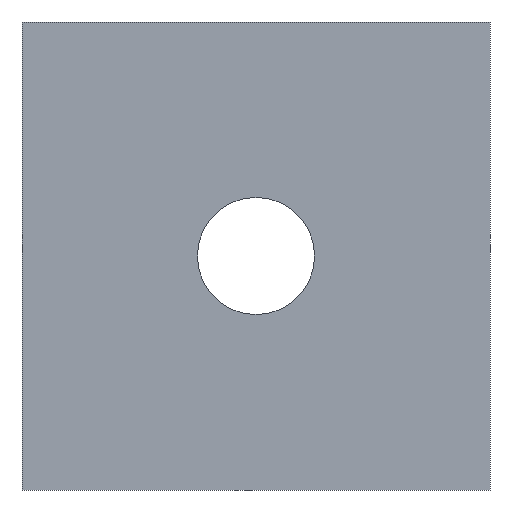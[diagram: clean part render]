
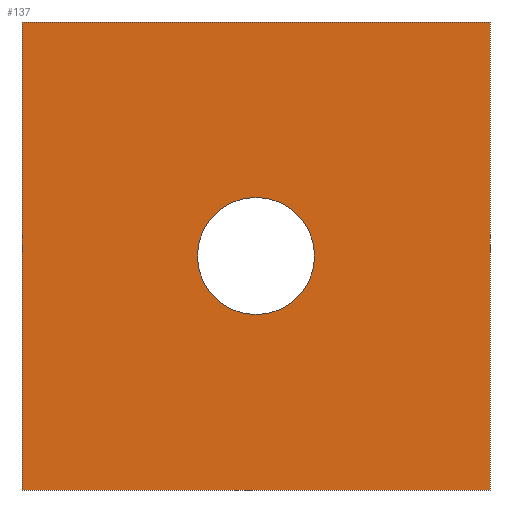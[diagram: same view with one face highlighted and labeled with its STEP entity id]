
A CAD part, front view. The second image highlights one B-rep face of the part: STEP entity #137.
In plain terms, the highlighted planar face has unit normal (0, -1, 0).
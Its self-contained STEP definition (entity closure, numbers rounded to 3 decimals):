
#21 = EDGE_CURVE('',#22,#24,#26,.T.);
#22 = VERTEX_POINT('',#23);
#23 = CARTESIAN_POINT('',(-38.5,-3.675,62.5));
#24 = VERTEX_POINT('',#25);
#25 = CARTESIAN_POINT('',(-38.5,-3.675,67.5));
#26 = SURFACE_CURVE('',#27,(#31,#43),.PCURVE_S1.);
#27 = LINE('',#28,#29);
#28 = CARTESIAN_POINT('',(-38.5,-3.675,62.5));
#29 = VECTOR('',#30,1.);
#30 = DIRECTION('',(0.,0.,1.));
#31 = PCURVE('',#32,#37);
#32 = PLANE('',#33);
#33 = AXIS2_PLACEMENT_3D('',#34,#35,#36);
#34 = CARTESIAN_POINT('',(-38.5,-3.675,62.5));
#35 = DIRECTION('',(1.,0.,0.));
#36 = DIRECTION('',(0.,0.,1.));
#37 = DEFINITIONAL_REPRESENTATION('',(#38),#42);
#38 = LINE('',#39,#40);
#39 = CARTESIAN_POINT('',(0.,0.));
#40 = VECTOR('',#41,1.);
#41 = DIRECTION('',(1.,0.));
#42 = ( GEOMETRIC_REPRESENTATION_CONTEXT(2) 
PARAMETRIC_REPRESENTATION_CONTEXT() REPRESENTATION_CONTEXT('2D SPACE',''
  ) );
#43 = PCURVE('',#44,#49);
#44 = PLANE('',#45);
#45 = AXIS2_PLACEMENT_3D('',#46,#47,#48);
#46 = CARTESIAN_POINT('',(-38.5,-3.675,62.5));
#47 = DIRECTION('',(0.,1.,0.));
#48 = DIRECTION('',(0.,0.,1.));
#49 = DEFINITIONAL_REPRESENTATION('',(#50),#54);
#50 = LINE('',#51,#52);
#51 = CARTESIAN_POINT('',(0.,0.));
#52 = VECTOR('',#53,1.);
#53 = DIRECTION('',(1.,0.));
#54 = ( GEOMETRIC_REPRESENTATION_CONTEXT(2) 
PARAMETRIC_REPRESENTATION_CONTEXT() REPRESENTATION_CONTEXT('2D SPACE',''
  ) );
#72 = PLANE('',#73);
#73 = AXIS2_PLACEMENT_3D('',#74,#75,#76);
#74 = CARTESIAN_POINT('',(-38.5,-3.675,62.5));
#75 = DIRECTION('',(0.,0.,1.));
#76 = DIRECTION('',(1.,0.,0.));
#126 = PLANE('',#127);
#127 = AXIS2_PLACEMENT_3D('',#128,#129,#130);
#128 = CARTESIAN_POINT('',(-38.5,-3.675,67.5));
#129 = DIRECTION('',(0.,0.,1.));
#130 = DIRECTION('',(1.,0.,0.));
#137 = ADVANCED_FACE('',(#138,#213),#44,.F.);
#138 = FACE_BOUND('',#139,.F.);
#139 = EDGE_LOOP('',(#140,#163,#164,#187));
#140 = ORIENTED_EDGE('',*,*,#141,.F.);
#141 = EDGE_CURVE('',#22,#142,#144,.T.);
#142 = VERTEX_POINT('',#143);
#143 = CARTESIAN_POINT('',(-33.5,-3.675,62.5));
#144 = SURFACE_CURVE('',#145,(#149,#156),.PCURVE_S1.);
#145 = LINE('',#146,#147);
#146 = CARTESIAN_POINT('',(-38.5,-3.675,62.5));
#147 = VECTOR('',#148,1.);
#148 = DIRECTION('',(1.,0.,0.));
#149 = PCURVE('',#44,#150);
#150 = DEFINITIONAL_REPRESENTATION('',(#151),#155);
#151 = LINE('',#152,#153);
#152 = CARTESIAN_POINT('',(0.,0.));
#153 = VECTOR('',#154,1.);
#154 = DIRECTION('',(0.,1.));
#155 = ( GEOMETRIC_REPRESENTATION_CONTEXT(2) 
PARAMETRIC_REPRESENTATION_CONTEXT() REPRESENTATION_CONTEXT('2D SPACE',''
  ) );
#156 = PCURVE('',#72,#157);
#157 = DEFINITIONAL_REPRESENTATION('',(#158),#162);
#158 = LINE('',#159,#160);
#159 = CARTESIAN_POINT('',(0.,0.));
#160 = VECTOR('',#161,1.);
#161 = DIRECTION('',(1.,0.));
#162 = ( GEOMETRIC_REPRESENTATION_CONTEXT(2) 
PARAMETRIC_REPRESENTATION_CONTEXT() REPRESENTATION_CONTEXT('2D SPACE',''
  ) );
#163 = ORIENTED_EDGE('',*,*,#21,.T.);
#164 = ORIENTED_EDGE('',*,*,#165,.T.);
#165 = EDGE_CURVE('',#24,#166,#168,.T.);
#166 = VERTEX_POINT('',#167);
#167 = CARTESIAN_POINT('',(-33.5,-3.675,67.5));
#168 = SURFACE_CURVE('',#169,(#173,#180),.PCURVE_S1.);
#169 = LINE('',#170,#171);
#170 = CARTESIAN_POINT('',(-38.5,-3.675,67.5));
#171 = VECTOR('',#172,1.);
#172 = DIRECTION('',(1.,0.,0.));
#173 = PCURVE('',#44,#174);
#174 = DEFINITIONAL_REPRESENTATION('',(#175),#179);
#175 = LINE('',#176,#177);
#176 = CARTESIAN_POINT('',(5.,0.));
#177 = VECTOR('',#178,1.);
#178 = DIRECTION('',(0.,1.));
#179 = ( GEOMETRIC_REPRESENTATION_CONTEXT(2) 
PARAMETRIC_REPRESENTATION_CONTEXT() REPRESENTATION_CONTEXT('2D SPACE',''
  ) );
#180 = PCURVE('',#126,#181);
#181 = DEFINITIONAL_REPRESENTATION('',(#182),#186);
#182 = LINE('',#183,#184);
#183 = CARTESIAN_POINT('',(0.,0.));
#184 = VECTOR('',#185,1.);
#185 = DIRECTION('',(1.,0.));
#186 = ( GEOMETRIC_REPRESENTATION_CONTEXT(2) 
PARAMETRIC_REPRESENTATION_CONTEXT() REPRESENTATION_CONTEXT('2D SPACE',''
  ) );
#187 = ORIENTED_EDGE('',*,*,#188,.F.);
#188 = EDGE_CURVE('',#142,#166,#189,.T.);
#189 = SURFACE_CURVE('',#190,(#194,#201),.PCURVE_S1.);
#190 = LINE('',#191,#192);
#191 = CARTESIAN_POINT('',(-33.5,-3.675,62.5));
#192 = VECTOR('',#193,1.);
#193 = DIRECTION('',(0.,0.,1.));
#194 = PCURVE('',#44,#195);
#195 = DEFINITIONAL_REPRESENTATION('',(#196),#200);
#196 = LINE('',#197,#198);
#197 = CARTESIAN_POINT('',(0.,5.));
#198 = VECTOR('',#199,1.);
#199 = DIRECTION('',(1.,0.));
#200 = ( GEOMETRIC_REPRESENTATION_CONTEXT(2) 
PARAMETRIC_REPRESENTATION_CONTEXT() REPRESENTATION_CONTEXT('2D SPACE',''
  ) );
#201 = PCURVE('',#202,#207);
#202 = PLANE('',#203);
#203 = AXIS2_PLACEMENT_3D('',#204,#205,#206);
#204 = CARTESIAN_POINT('',(-33.5,-3.675,62.5));
#205 = DIRECTION('',(1.,0.,0.));
#206 = DIRECTION('',(0.,0.,1.));
#207 = DEFINITIONAL_REPRESENTATION('',(#208),#212);
#208 = LINE('',#209,#210);
#209 = CARTESIAN_POINT('',(0.,0.));
#210 = VECTOR('',#211,1.);
#211 = DIRECTION('',(1.,0.));
#212 = ( GEOMETRIC_REPRESENTATION_CONTEXT(2) 
PARAMETRIC_REPRESENTATION_CONTEXT() REPRESENTATION_CONTEXT('2D SPACE',''
  ) );
#213 = FACE_BOUND('',#214,.F.);
#214 = EDGE_LOOP('',(#215));
#215 = ORIENTED_EDGE('',*,*,#216,.T.);
#216 = EDGE_CURVE('',#217,#217,#219,.T.);
#217 = VERTEX_POINT('',#218);
#218 = CARTESIAN_POINT('',(-35.375,-3.675,65.));
#219 = SURFACE_CURVE('',#220,(#225,#236),.PCURVE_S1.);
#220 = CIRCLE('',#221,0.625);
#221 = AXIS2_PLACEMENT_3D('',#222,#223,#224);
#222 = CARTESIAN_POINT('',(-36.,-3.675,65.));
#223 = DIRECTION('',(0.,-1.,0.));
#224 = DIRECTION('',(1.,0.,0.));
#225 = PCURVE('',#44,#226);
#226 = DEFINITIONAL_REPRESENTATION('',(#227),#235);
#227 = ( BOUNDED_CURVE() B_SPLINE_CURVE(2,(#228,#229,#230,#231,#232,#233
,#234),.UNSPECIFIED.,.T.,.F.) B_SPLINE_CURVE_WITH_KNOTS((1,2,2,2,2,1),(
    -2.094,0.,2.094,4.189,6.283,
8.378),.UNSPECIFIED.) CURVE() GEOMETRIC_REPRESENTATION_ITEM() 
RATIONAL_B_SPLINE_CURVE((1.,0.5,1.,0.5,1.,0.5,1.)) REPRESENTATION_ITEM(
  '') );
#228 = CARTESIAN_POINT('',(2.5,3.125));
#229 = CARTESIAN_POINT('',(3.583,3.125));
#230 = CARTESIAN_POINT('',(3.041,2.188));
#231 = CARTESIAN_POINT('',(2.5,1.25));
#232 = CARTESIAN_POINT('',(1.959,2.188));
#233 = CARTESIAN_POINT('',(1.417,3.125));
#234 = CARTESIAN_POINT('',(2.5,3.125));
#235 = ( GEOMETRIC_REPRESENTATION_CONTEXT(2) 
PARAMETRIC_REPRESENTATION_CONTEXT() REPRESENTATION_CONTEXT('2D SPACE',''
  ) );
#236 = PCURVE('',#237,#242);
#237 = CYLINDRICAL_SURFACE('',#238,0.625);
#238 = AXIS2_PLACEMENT_3D('',#239,#240,#241);
#239 = CARTESIAN_POINT('',(-36.,-1.4,65.));
#240 = DIRECTION('',(0.,-1.,0.));
#241 = DIRECTION('',(1.,0.,0.));
#242 = DEFINITIONAL_REPRESENTATION('',(#243),#247);
#243 = LINE('',#244,#245);
#244 = CARTESIAN_POINT('',(0.,2.275));
#245 = VECTOR('',#246,1.);
#246 = DIRECTION('',(1.,0.));
#247 = ( GEOMETRIC_REPRESENTATION_CONTEXT(2) 
PARAMETRIC_REPRESENTATION_CONTEXT() REPRESENTATION_CONTEXT('2D SPACE',''
  ) );
